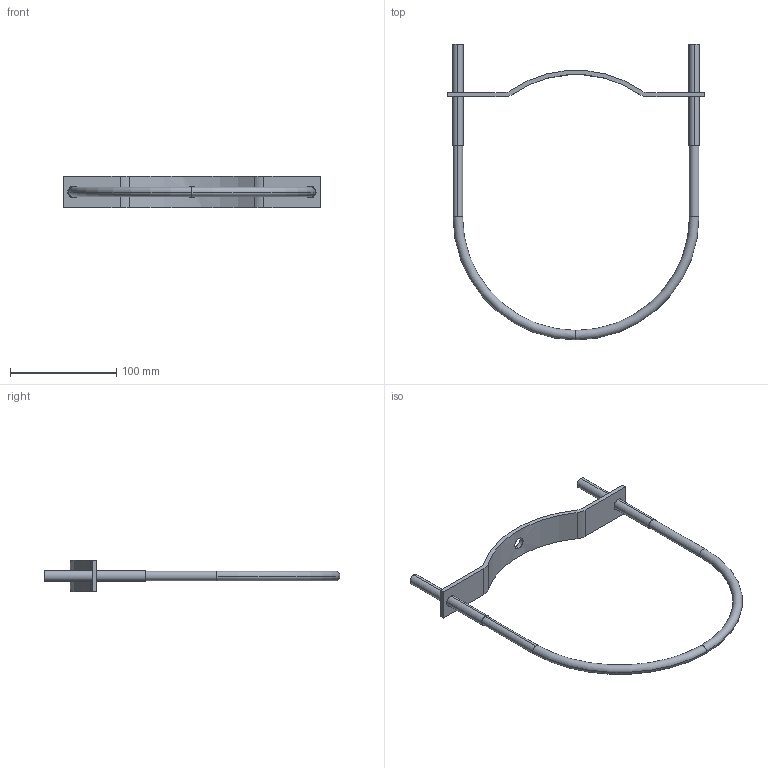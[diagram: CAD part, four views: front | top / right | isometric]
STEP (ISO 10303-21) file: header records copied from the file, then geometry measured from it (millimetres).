
FILE_DESCRIPTION((''),'2;1');
FILE_NAME('2014A12200_ASM','2017-05-12T',('Administrator'),(''),'PRO/ENGINEER BY PARAMETRIC TECHNOLOGY CORPORATION, 2009360','PRO/ENGINEER BY PARAMETRIC TECHNOLOGY CORPORATION, 2009360','');
FILE_SCHEMA(('AUTOMOTIVE_DESIGN_CC2 { 1 2 10303 214 -1 1 5 2 }'));
Length unit declared in the file: millimetre
Products named in the file (3): MANIFOLD_SOLID_BREP_96; MANIFOLD_SOLID_BREP_97; 2014A12200_ASM
Assembly tree (2 placements, depth 2):
  2014A12200_ASM
    MANIFOLD_SOLID_BREP_96
    MANIFOLD_SOLID_BREP_97
Bounding box: 242 x 277.85 x 30 mm (x, y, z)
Volume: 73928.2 mm3; surface area: 36800 mm2
Topology: 2 solids, 2 shells, 36 faces, 88 edges, 58 vertices
Faces by surface type: cylinder 20, plane 12, torus 4
Entity records: 1491 total; most frequent: CARTESIAN_POINT 243, DIRECTION 212, ORIENTED_EDGE 176, PRESENTATION_STYLE_ASSIGNMENT 90, STYLED_ITEM 90, CURVE_STYLE 88, EDGE_CURVE 88, AXIS2_PLACEMENT_3D 87
